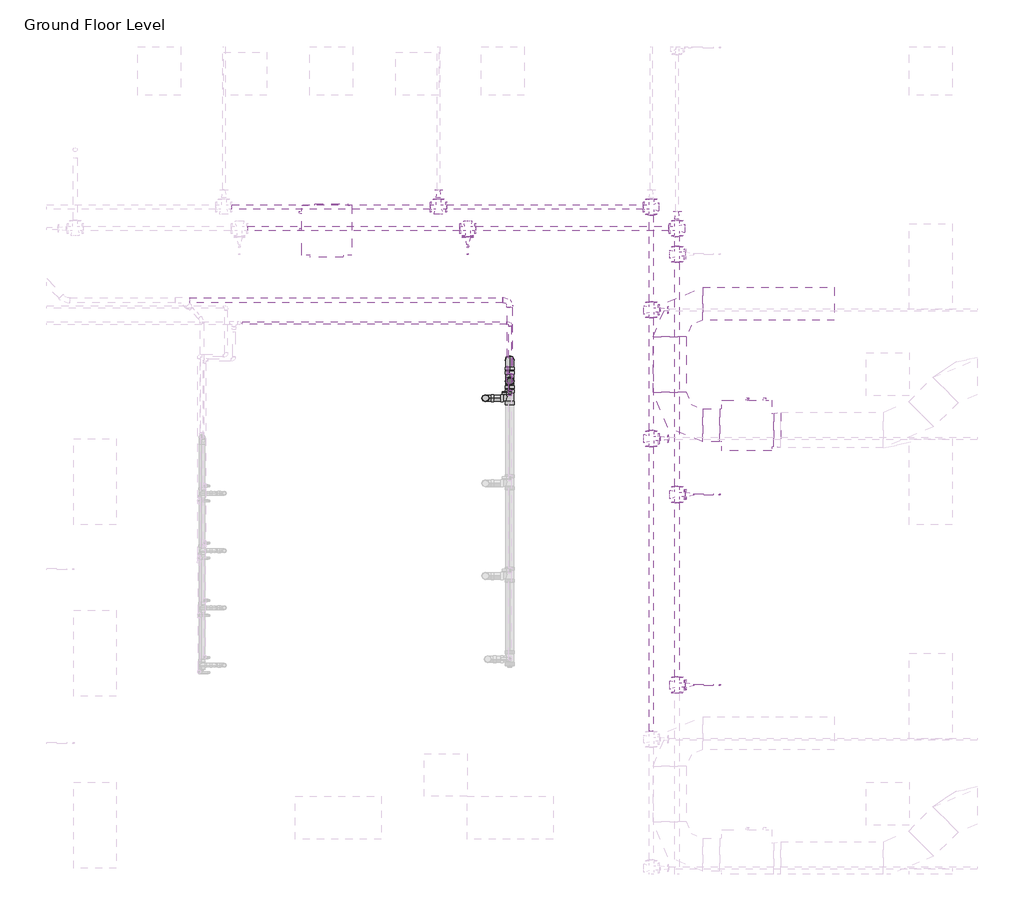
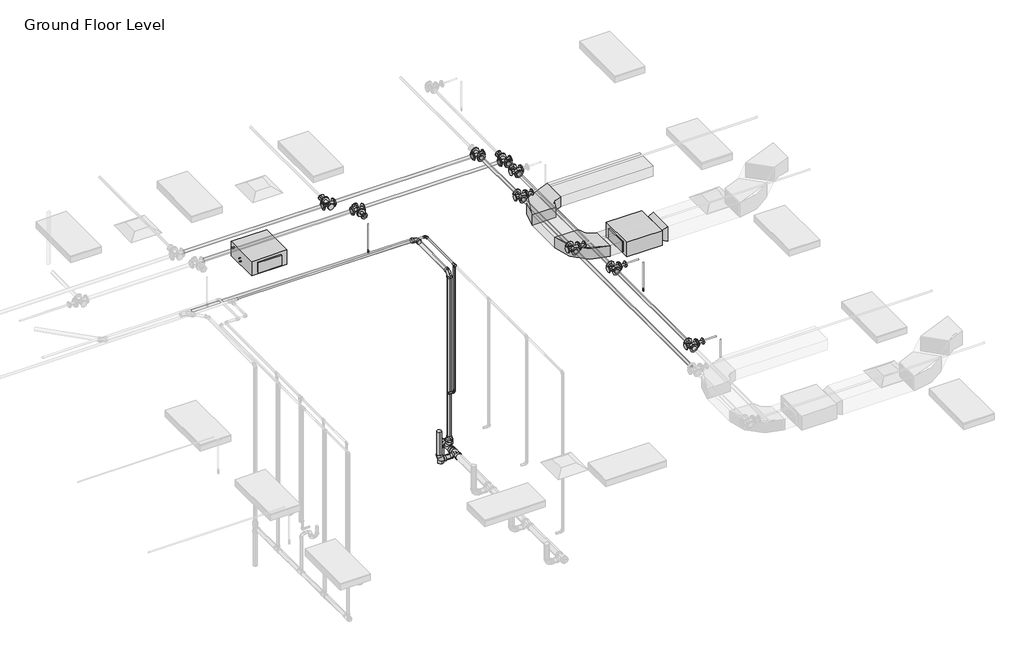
# One storey, part 60 of 66: 29 pipe segments, 26 pipe fittings, 3 duct fittings, 3 duct segments, 3 fire suppression terminals, 2 proxies.
"""IFC4 building model written with IfcOpenShell, lengths in millimetres."""

from ifc_helpers import new_model, si_unit, point, frame, frame_2d, origin, place, context, project, spatial, polyline, circle_curve, trimmed, segment, composite_curve, outline, extrude, transform, mapped, element, save
from components import fcu_daikin_iu_bad131e0, m_rectangular_elbow_radius_1_w_54c96895, m_rectangular_transition_angle_45_degree_2b595dfe, m_sprinkler_pendent_15_mm_pendent_06fcbd8e, m_bend_pvc_sch_40_dwv_standard_a4b99d37, m_bend_pvc_sch_40_dwv_standard_aa7efa4c, m_bend_pvc_sch_40_dwv_standard_c8221c0d, m_bend_pvc_sch_40_dwv_standard_69456cca, m_reducer_flanged_cs_class_150_standard_9dfe9ec5, m_reducer_flanged_cs_class_150_standard_a7631c35, m_reducer_flanged_cs_class_150_standard_55262df0, m_reducer_pvc_sch_40_dwv_standard_9996614f, m_tee_reducing_sanitary_pvc_sch_40_dwv_standard_b49161a9, m_tee_reducing_sanitary_pvc_sch_40_dwv_standard_c42f3c59, m_tee_round_base_flanged_cs_class_150_standard_dd767e04, standard_517a5a8d, standard_72b35c3b

model = new_model("IFC4")

# Units and contexts
model_context = context("Model", 3, world=origin())
ifc_project = project(units=[si_unit("LENGTHUNIT", "METRE", prefix="MILLI")], contexts=[model_context])

# Site, building, storey
site = spatial("IfcSite", under=ifc_project)
building = spatial("IfcBuilding", under=site)
storey = spatial("IfcBuildingStorey", under=building, Name="Ground Floor Level", Elevation=900.0)

# Proxies
placement = place(None, origin())
fcu_daikin_iu_shape = fcu_daikin_iu_bad131e0(model_context)
element("IfcBuildingElementProxy", 1, Name="FCU-DAIKIN IU : 4.5kW, 230V/50Hz/1Ph", ObjectType="FCU-DAIKIN IU : 4.5kW, 230V/50Hz/1Ph", at=placement, inside=storey, context=model_context, shape_type="MappedRepresentation", body=[
    mapped(fcu_daikin_iu_shape, transform((6968.8139492, 12019.6779527, 3934.0932729), x_axis=(0.0, 1.0, 0.0), y_axis=(-1.0, 0.0, 0.0), z_axis=(0.0, 0.0, 1.0))),
])
element("IfcBuildingElementProxy", 2, Name="FCU-DAIKIN IU : 4.5kW, 230V/50Hz/1Ph", ObjectType="FCU-DAIKIN IU : 4.5kW, 230V/50Hz/1Ph", at=placement, inside=storey, context=model_context, shape_type="MappedRepresentation", body=[
    mapped(fcu_daikin_iu_shape, transform((1102.7672395, 14745.2153534, 3934.0881511), x_axis=(-1.0, 0.0, 0.0), y_axis=(0.0, -1.0, 0.0), z_axis=(0.0, 0.0, 1.0))),
])

# Duct fittings
m_rectangular_elbow_radius_1_w_shape = m_rectangular_elbow_radius_1_w_54c96895(model_context)
element("IfcDuctFitting", 3, ObjectType="M_Rectangular Elbow - Radius : 1 W", at=placement, inside=storey, context=model_context, shape_type="MappedRepresentation", body=[
    mapped(m_rectangular_elbow_radius_1_w_shape, transform((5893.4139492, 12019.6779527, 4075.2932729), x_axis=(0.0, -1.0, 0.0), y_axis=(1.0, 0.0, 0.0), z_axis=(0.0, 0.0, 1.0))),
])
element("IfcDuctFitting", 4, ObjectType="M_Rectangular Elbow - Radius : 1 W", at=placement, inside=storey, context=model_context, shape_type="MappedRepresentation", body=[
    mapped(m_rectangular_elbow_radius_1_w_shape, transform((5893.4139492, 13719.6783949, 4075.2932729), x_axis=(-1.0, 0.0, 0.0), y_axis=(0.0, -1.0, 0.0), z_axis=(0.0, 0.0, 1.0))),
])
m_rectangular_transition_angle_45_degree_shape = m_rectangular_transition_angle_45_degree_2b595dfe(model_context)
element("IfcDuctFitting", 5, ObjectType="M_Rectangular Transition - Angle : 45 Degree", at=placement, inside=storey, context=model_context, shape_type="MappedRepresentation", body=[
    mapped(m_rectangular_transition_angle_45_degree_shape, transform((7344.2139492, 11956.1779527, 4100.0057729), x_axis=(1.0, 0.0, 0.0), y_axis=(0.0, 1.0, 0.0), z_axis=(0.0, 0.0, 1.0))),
])

# Duct segments
element("IfcDuctSegment", 6, ObjectType="Radius Elbows / Taps", at=placement, inside=storey, context=model_context, shape_type="SweptSolid", body=[
    extrude(outline(polyline([(6593.4139492, 12250.6154527), (6593.4139492, 11788.7404527), (6355.2889492, 11788.7404527), (6355.2889492, 12250.6154527), (6593.4139492, 12250.6154527)])), frame((0.0, 0.0, 3968.1432729), z_axis=(0.0, 0.0, 1.0), x_axis=(1.0, 0.0, 0.0)), (0.0, 0.0, 1.0), 214.3),
])
element("IfcDuctSegment", 7, ObjectType="Radius Elbows / Taps", at=placement, inside=storey, context=model_context, shape_type="SweptSolid", body=[
    extrude(outline(polyline([(6124.3514492, 12481.5529527), (5662.4764492, 12481.5529527), (5662.4764492, 13257.8033949), (6124.3514492, 13257.8033949), (6124.3514492, 12481.5529527)])), frame((0.0, 0.0, 3968.1432729), z_axis=(0.0, 0.0, 1.0), x_axis=(1.0, 0.0, 0.0)), (0.0, 0.0, 1.0), 214.3),
])
element("IfcDuctSegment", 8, ObjectType="Radius Elbows / Taps", at=placement, inside=storey, context=model_context, shape_type="SweptSolid", body=[
    extrude(outline(polyline([(6355.2889492, 13488.7408949), (6355.2889492, 13950.6158949), (8193.4139492, 13950.6158949), (8193.4139492, 13488.7408949), (6355.2889492, 13488.7408949)])), frame((0.0, 0.0, 3968.1432729), z_axis=(0.0, 0.0, 1.0), x_axis=(1.0, 0.0, 0.0)), (0.0, 0.0, 1.0), 214.3),
])

# Fire suppression terminals
m_sprinkler_pendent_15_mm_pendent_shape = m_sprinkler_pendent_15_mm_pendent_06fcbd8e(model_context)
element("IfcFireSuppressionTerminal", 9, ObjectType="M_Sprinkler - Pendent : 15 mm Pendent", at=placement, inside=storey, context=model_context, shape_type="MappedRepresentation", body=[
    mapped(m_sprinkler_pendent_15_mm_pendent_shape, transform((3071.8868905, 14412.7243649, 3650.0), x_axis=(1.0, 0.0, 0.0), y_axis=(0.0, 1.0, 0.0), z_axis=(0.0, 0.0, 1.0))),
])
element("IfcFireSuppressionTerminal", 10, ObjectType="M_Sprinkler - Pendent : 15 mm Pendent", at=placement, inside=storey, context=model_context, shape_type="MappedRepresentation", body=[
    mapped(m_sprinkler_pendent_15_mm_pendent_shape, transform((6592.5481019, 11054.9808263, 3650.0), x_axis=(1.0, 0.0, 0.0), y_axis=(0.0, 1.0, 0.0), z_axis=(0.0, 0.0, 1.0))),
])
element("IfcFireSuppressionTerminal", 11, ObjectType="M_Sprinkler - Pendent : 15 mm Pendent", at=placement, inside=storey, context=model_context, shape_type="MappedRepresentation", body=[
    mapped(m_sprinkler_pendent_15_mm_pendent_shape, transform((6592.5481019, 8393.5579106, 3650.0), x_axis=(1.0, 0.0, 0.0), y_axis=(0.0, 1.0, 0.0), z_axis=(0.0, 0.0, 1.0))),
])

# Pipe fittings
m_bend_pvc_sch_40_dwv_standard_shape = m_bend_pvc_sch_40_dwv_standard_a4b99d37(model_context)
element("IfcPipeFitting", 12, ObjectType="M_Bend - PVC - Sch 40 - DWV : Standard", at=placement, inside=storey, context=model_context, shape_type="MappedRepresentation", body=[
    mapped(m_bend_pvc_sch_40_dwv_standard_shape, transform((3319.2245422, 12401.0385609, 390.1593073), x_axis=(0.0, 0.0, -1.0), y_axis=(1.0, 0.0, 0.0), z_axis=(0.0, -1.0, 0.0))),
])
m_bend_pvc_sch_40_dwv_standard_2_shape = m_bend_pvc_sch_40_dwv_standard_aa7efa4c(model_context)
element("IfcPipeFitting", 13, ObjectType="M_Bend - PVC - Sch 40 - DWV : Standard", at=placement, inside=storey, context=model_context, shape_type="MappedRepresentation", body=[
    mapped(m_bend_pvc_sch_40_dwv_standard_2_shape, transform((3657.4922763, 12931.9692954, 384.8), x_axis=(0.0, 0.9999500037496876, -0.00999950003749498), y_axis=(0.0, -0.00999950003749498, -0.9999500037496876), z_axis=(-1.0, 0.0, 0.0))),
])
m_bend_pvc_sch_40_dwv_standard_3_shape = m_bend_pvc_sch_40_dwv_standard_c8221c0d(model_context)
element("IfcPipeFitting", 14, ObjectType="M_Bend - PVC - Sch 40 - DWV : Standard", at=placement, inside=storey, context=model_context, shape_type="MappedRepresentation", body=[
    mapped(m_bend_pvc_sch_40_dwv_standard_3_shape, transform((3657.4860907, 12640.4076203, 4054.1870995), x_axis=(0.0, 0.0, 1.0), y_axis=(0.0, 1.0, 0.0), z_axis=(-1.0, 0.0, 0.0))),
])
m_bend_pvc_sch_40_dwv_standard_4_shape = m_bend_pvc_sch_40_dwv_standard_69456cca(model_context)
element("IfcPipeFitting", 15, ObjectType="M_Bend - PVC - Sch 40 - DWV : Standard", at=placement, inside=storey, context=model_context, shape_type="MappedRepresentation", body=[
    mapped(m_bend_pvc_sch_40_dwv_standard_4_shape, transform((3657.4860907, 13768.7316659, 4065.526469), x_axis=(0.0, 0.9999495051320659, 0.010049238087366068), y_axis=(-0.9999499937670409, -0.00010049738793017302, 0.009999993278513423), z_axis=(0.01000049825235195, -0.010048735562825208, 0.9998995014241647))),
])
m_reducer_flanged_cs_class_150_standard_shape = m_reducer_flanged_cs_class_150_standard_9dfe9ec5(model_context)
element("IfcPipeFitting", 16, ObjectType="M_Reducer - Flanged - CS - Class 150 : Standard", at=placement, inside=storey, context=model_context, shape_type="MappedRepresentation", body=[
    mapped(m_reducer_flanged_cs_class_150_standard_shape, transform((6111.057812, 11054.9808263, 4291.2754753), x_axis=(1.0, 0.0, 0.0), y_axis=(0.0, 0.0, -1.0), z_axis=(0.0, 1.0, 0.0))),
])
element("IfcPipeFitting", 17, ObjectType="M_Reducer - Flanged - CS - Class 150 : Standard", at=placement, inside=storey, context=model_context, shape_type="MappedRepresentation", body=[
    mapped(m_reducer_flanged_cs_class_150_standard_shape, transform((6111.057812, 8393.5579106, 4291.2754753), x_axis=(1.0, 0.0, 0.0), y_axis=(0.0, 0.0, -1.0), z_axis=(0.0, 1.0, 0.0))),
])
m_reducer_flanged_cs_class_150_standard_2_shape = m_reducer_flanged_cs_class_150_standard_a7631c35(model_context)
element("IfcPipeFitting", 18, ObjectType="M_Reducer - Flanged - CS - Class 150 : Standard", at=placement, inside=storey, context=model_context, shape_type="MappedRepresentation", body=[
    mapped(m_reducer_flanged_cs_class_150_standard_2_shape, transform((5997.057812, 14887.4681847, 4291.0943441), x_axis=(0.0, 1.0, 0.0), y_axis=(-1.0, 0.0, 0.0), z_axis=(0.0, 0.0, 1.0))),
])
element("IfcPipeFitting", 19, ObjectType="M_Reducer - Flanged - CS - Class 150 : Standard", at=placement, inside=storey, context=model_context, shape_type="MappedRepresentation", body=[
    mapped(m_reducer_flanged_cs_class_150_standard_2_shape, transform((2662.7672395, 15187.2009828, 4360.0), x_axis=(0.0, 1.0, 0.0), y_axis=(-1.0, 0.0, 0.0), z_axis=(0.0, 0.0, 1.0))),
])
element("IfcPipeFitting", 20, ObjectType="M_Reducer - Flanged - CS - Class 150 : Standard", at=placement, inside=storey, context=model_context, shape_type="MappedRepresentation", body=[
    mapped(m_reducer_flanged_cs_class_150_standard_2_shape, transform((5749.869498, 13635.2153534, 4360.0), x_axis=(1.0, 0.0, 0.0), y_axis=(0.0, 0.0, 1.0), z_axis=(0.0, -1.0, 0.0))),
])
element("IfcPipeFitting", 21, ObjectType="M_Reducer - Flanged - CS - Class 150 : Standard", at=placement, inside=storey, context=model_context, shape_type="MappedRepresentation", body=[
    mapped(m_reducer_flanged_cs_class_150_standard_2_shape, transform((5749.869498, 11835.2153534, 4360.0), x_axis=(1.0, 0.0, 0.0), y_axis=(0.0, 0.0, 1.0), z_axis=(0.0, -1.0, 0.0))),
])
m_reducer_flanged_cs_class_150_standard_3_shape = m_reducer_flanged_cs_class_150_standard_55262df0(model_context)
element("IfcPipeFitting", 22, ObjectType="M_Reducer - Flanged - CS - Class 150 : Standard", at=placement, inside=storey, context=model_context, shape_type="MappedRepresentation", body=[
    mapped(m_reducer_flanged_cs_class_150_standard_3_shape, transform((3071.8868905, 14659.4681847, 4291.0943441), x_axis=(0.0, -1.0, 0.0), y_axis=(1.0, 0.0, 0.0), z_axis=(0.0, 0.0, 1.0))),
])
m_reducer_pvc_sch_40_dwv_standard_shape = m_reducer_pvc_sch_40_dwv_standard_9996614f(model_context)
element("IfcPipeFitting", 23, ObjectType="M_Reducer - PVC - Sch 40 - DWV : Standard", at=placement, inside=storey, context=model_context, shape_type="MappedRepresentation", body=[
    mapped(m_reducer_pvc_sch_40_dwv_standard_shape, transform((3657.4891752, 12640.1615283, 533.8243961), x_axis=(0.0, 7.101608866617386e-05, 0.9999999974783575), y_axis=(0.0, 0.9999999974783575, -7.101608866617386e-05), z_axis=(-1.0, 0.0, 0.0))),
])
m_tee_reducing_sanitary_pvc_sch_40_dwv_standard_shape = m_tee_reducing_sanitary_pvc_sch_40_dwv_standard_b49161a9(model_context)
element("IfcPipeFitting", 24, ObjectType="M_Tee Reducing Sanitary - PVC - Sch 40 - DWV : Standard", at=placement, inside=storey, context=model_context, shape_type="MappedRepresentation", body=[
    mapped(m_tee_reducing_sanitary_pvc_sch_40_dwv_standard_shape, transform((3657.4922763, 12401.038061, 390.1093123), x_axis=(0.0, -0.9999500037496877, 0.009999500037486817), y_axis=(1.0000000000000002, 0.0, 0.0), z_axis=(0.0, 0.009999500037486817, 0.9999500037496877))),
])
m_tee_reducing_sanitary_pvc_sch_40_dwv_standard_2_shape = m_tee_reducing_sanitary_pvc_sch_40_dwv_standard_c42f3c59(model_context)
element("IfcPipeFitting", 25, ObjectType="M_Tee Reducing Sanitary - PVC - Sch 40 - DWV : Standard", at=placement, inside=storey, context=model_context, shape_type="MappedRepresentation", body=[
    mapped(m_tee_reducing_sanitary_pvc_sch_40_dwv_standard_2_shape, transform((3657.4922763, 12640.3832411, 387.7158605), x_axis=(0.0, -0.9999500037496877, 0.009999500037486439), y_axis=(0.0, -0.009999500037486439, -0.9999500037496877), z_axis=(1.0, 0.0, 0.0))),
])
m_tee_round_base_flanged_cs_class_150_standard_shape = m_tee_round_base_flanged_cs_class_150_standard_dd767e04(model_context)
element("IfcPipeFitting", 26, ObjectType="M_Tee Round Base - Flanged - CS - Class 150 : Standard", at=placement, inside=storey, context=model_context, shape_type="MappedRepresentation", body=[
    mapped(m_tee_round_base_flanged_cs_class_150_standard_shape, transform((5997.057812, 14773.4681847, 4291.0943441), x_axis=(0.0, -1.0, 0.0), y_axis=(1.0, 0.0, 0.0), z_axis=(0.0, 0.0, 1.0))),
])
element("IfcPipeFitting", 27, ObjectType="M_Tee Round Base - Flanged - CS - Class 150 : Standard", at=placement, inside=storey, context=model_context, shape_type="MappedRepresentation", body=[
    mapped(m_tee_round_base_flanged_cs_class_150_standard_shape, transform((3071.8868905, 14773.4681847, 4291.0943441), x_axis=(-1.0, 0.0, 0.0), y_axis=(0.0, 1.0, 0.0), z_axis=(0.0, 0.0, -1.0))),
])
element("IfcPipeFitting", 28, ObjectType="M_Tee Round Base - Flanged - CS - Class 150 : Standard", at=placement, inside=storey, context=model_context, shape_type="MappedRepresentation", body=[
    mapped(m_tee_round_base_flanged_cs_class_150_standard_shape, transform((5997.057812, 14412.7243649, 4291.0943441), x_axis=(0.0, 1.0, 0.0), y_axis=(-1.0, 0.0, 0.0), z_axis=(0.0, 0.0, 1.0))),
])
element("IfcPipeFitting", 29, ObjectType="M_Tee Round Base - Flanged - CS - Class 150 : Standard", at=placement, inside=storey, context=model_context, shape_type="MappedRepresentation", body=[
    mapped(m_tee_round_base_flanged_cs_class_150_standard_shape, transform((5997.057812, 11054.9808263, 4291.0943441), x_axis=(0.0, 1.0, 0.0), y_axis=(-1.0, 0.0, 0.0), z_axis=(0.0, 0.0, 1.0))),
])
element("IfcPipeFitting", 30, ObjectType="M_Tee Round Base - Flanged - CS - Class 150 : Standard", at=placement, inside=storey, context=model_context, shape_type="MappedRepresentation", body=[
    mapped(m_tee_round_base_flanged_cs_class_150_standard_shape, transform((5997.057812, 8393.5579106, 4291.0943441), x_axis=(0.0, 1.0, 0.0), y_axis=(-1.0, 0.0, 0.0), z_axis=(0.0, 0.0, 1.0))),
])
element("IfcPipeFitting", 31, ObjectType="M_Tee Round Base - Flanged - CS - Class 150 : Standard", at=placement, inside=storey, context=model_context, shape_type="MappedRepresentation", body=[
    mapped(m_tee_round_base_flanged_cs_class_150_standard_shape, transform((2662.7672395, 15073.2009828, 4360.0), x_axis=(-1.0, 0.0, 0.0), y_axis=(0.0, -1.0, 0.0), z_axis=(0.0, 0.0, 1.0))),
])
element("IfcPipeFitting", 32, ObjectType="M_Tee Round Base - Flanged - CS - Class 150 : Standard", at=placement, inside=storey, context=model_context, shape_type="MappedRepresentation", body=[
    mapped(m_tee_round_base_flanged_cs_class_150_standard_shape, transform((5635.869498, 15073.2009828, 4360.0), x_axis=(0.0, -1.0, 0.0), y_axis=(1.0, 0.0, 0.0), z_axis=(0.0, 0.0, 1.0))),
])
element("IfcPipeFitting", 33, ObjectType="M_Tee Round Base - Flanged - CS - Class 150 : Standard", at=placement, inside=storey, context=model_context, shape_type="MappedRepresentation", body=[
    mapped(m_tee_round_base_flanged_cs_class_150_standard_shape, transform((5635.869498, 13635.2153534, 4360.0), x_axis=(0.0, 1.0, 0.0), y_axis=(-1.0, 0.0, 0.0), z_axis=(0.0, 0.0, 1.0))),
])
element("IfcPipeFitting", 34, ObjectType="M_Tee Round Base - Flanged - CS - Class 150 : Standard", at=placement, inside=storey, context=model_context, shape_type="MappedRepresentation", body=[
    mapped(m_tee_round_base_flanged_cs_class_150_standard_shape, transform((5635.869498, 11835.2153534, 4360.0), x_axis=(0.0, 1.0, 0.0), y_axis=(-1.0, 0.0, 0.0), z_axis=(0.0, 0.0, 1.0))),
])
standard_shape = standard_517a5a8d(model_context)
element("IfcPipeFitting", 35, ObjectType="M_Elbow - CPVC - Sch 40 : Standard", at=placement, inside=storey, context=model_context, shape_type="MappedRepresentation", body=[
    mapped(standard_shape, transform((3662.4674395, 13449.9865561, 4315.0), x_axis=(0.0, 1.0, 0.0), y_axis=(-1.0, 0.0, 0.0), z_axis=(0.0, 0.0, 1.0))),
])
element("IfcPipeFitting", 36, ObjectType="M_Elbow - CPVC - Sch 40 : Standard", at=placement, inside=storey, context=model_context, shape_type="MappedRepresentation", body=[
    mapped(standard_shape, transform((3662.4674395, 12474.4768272, 1655.0), x_axis=(0.0, 0.0, -1.0), y_axis=(-1.0, 0.0, 0.0), z_axis=(0.0, 1.0, 0.0))),
])
standard_2_shape = standard_72b35c3b(model_context)
element("IfcPipeFitting", 37, ObjectType="M_Tee - CPVC - Sch 40 : Standard", at=placement, inside=storey, context=model_context, shape_type="MappedRepresentation", body=[
    mapped(standard_2_shape, transform((3662.4674395, 12474.4768272, 4315.0), x_axis=(0.0, -1.0, 0.0), y_axis=(0.0, 0.0, 1.0), z_axis=(-1.0, 0.0, 0.0))),
])

# Pipe segments
element("IfcPipeSegment", 38, ObjectType="CPVC", at=placement, inside=storey, context=model_context, shape_type="SweptSolid", body=[
    extrude(outline(composite_curve([segment(trimmed(circle_curve(frame_2d((13449.9865561, 4315.0)), 16.7005), [point((13433.2860561, 4315.0))], [point((13449.9865561, 4331.7005))], False, "CARTESIAN"), True, "CONTINUOUS"), segment(trimmed(circle_curve(frame_2d((13449.9865561, 4315.0)), 16.7005), [point((13449.9865561, 4331.7005))], [point((13466.6870561, 4315.0))], False, "CARTESIAN"), True, "CONTINUOUS"), segment(trimmed(circle_curve(frame_2d((13449.9865561, 4315.0)), 16.7005), [point((13466.6870561, 4315.0))], [point((13449.9865561, 4298.2995))], False, "CARTESIAN"), True, "CONTINUOUS"), segment(trimmed(circle_curve(frame_2d((13449.9865561, 4315.0)), 16.7005), [point((13449.9865561, 4298.2995))], [point((13433.2860561, 4315.0))], False, "CARTESIAN"), True, "CONTINUOUS")], self_intersect=False)), frame((-77.1388855, 0.0, 0.0), z_axis=(1.0, 0.0, 0.0), x_axis=(0.0, 1.0, 0.0)), (0.0, 0.0, 1.0), 3696.343775),
])
element("IfcPipeSegment", 39, ObjectType="CPVC", at=placement, inside=storey, context=model_context, shape_type="SweptSolid", body=[
    extrude(outline(composite_curve([segment(trimmed(circle_curve(frame_2d((12474.4768272, 1655.0)), 16.7005), [point((12491.1773272, 1655.0))], [point((12474.4768272, 1638.2995))], False, "CARTESIAN"), True, "CONTINUOUS"), segment(trimmed(circle_curve(frame_2d((12474.4768272, 1655.0)), 16.7005), [point((12474.4768272, 1638.2995))], [point((12457.7763272, 1655.0))], False, "CARTESIAN"), True, "CONTINUOUS"), segment(trimmed(circle_curve(frame_2d((12474.4768272, 1655.0)), 16.7005), [point((12457.7763272, 1655.0))], [point((12474.4768272, 1671.7005))], False, "CARTESIAN"), True, "CONTINUOUS"), segment(trimmed(circle_curve(frame_2d((12474.4768272, 1655.0)), 16.7005), [point((12474.4768272, 1671.7005))], [point((12491.1773272, 1655.0))], False, "CARTESIAN"), True, "CONTINUOUS")], self_intersect=False)), frame((3552.7672395, 0.0, 0.0), z_axis=(1.0, 0.0, 0.0), x_axis=(0.0, 1.0, 0.0)), (0.0, 0.0, 1.0), 66.43765),
])
element("IfcPipeSegment", 40, ObjectType="CPVC", at=placement, inside=storey, context=model_context, shape_type="SweptSolid", body=[
    extrude(outline(composite_curve([segment(trimmed(circle_curve(frame_2d((3662.4674395, 12474.4768272)), 16.7005), [point((3679.1679395, 12474.4768272))], [point((3662.4674395, 12457.7763272))], False, "CARTESIAN"), True, "CONTINUOUS"), segment(trimmed(circle_curve(frame_2d((3662.4674395, 12474.4768272)), 16.7005), [point((3662.4674395, 12457.7763272))], [point((3645.7669395, 12474.4768272))], False, "CARTESIAN"), True, "CONTINUOUS"), segment(trimmed(circle_curve(frame_2d((3662.4674395, 12474.4768272)), 16.7005), [point((3645.7669395, 12474.4768272))], [point((3662.4674395, 12491.1773272))], False, "CARTESIAN"), True, "CONTINUOUS"), segment(trimmed(circle_curve(frame_2d((3662.4674395, 12474.4768272)), 16.7005), [point((3662.4674395, 12491.1773272))], [point((3679.1679395, 12474.4768272))], False, "CARTESIAN"), True, "CONTINUOUS")], self_intersect=False)), frame((0.0, 0.0, 1698.26255), z_axis=(0.0, 0.0, 1.0), x_axis=(1.0, 0.0, 0.0)), (0.0, 0.0, 1.0), 2577.03725),
])
element("IfcPipeSegment", 41, ObjectType="CPVC", at=placement, inside=storey, context=model_context, shape_type="SweptSolid", body=[
    extrude(outline(composite_curve([segment(trimmed(circle_curve(frame_2d((4315.0, 3662.4674395)), 16.7005), [point((4315.0, 3645.7669395))], [point((4298.2995, 3662.4674395))], False, "CARTESIAN"), True, "CONTINUOUS"), segment(trimmed(circle_curve(frame_2d((4315.0, 3662.4674395)), 16.7005), [point((4298.2995, 3662.4674395))], [point((4315.0, 3679.1679395))], False, "CARTESIAN"), True, "CONTINUOUS"), segment(trimmed(circle_curve(frame_2d((4315.0, 3662.4674395)), 16.7005), [point((4315.0, 3679.1679395))], [point((4331.7005, 3662.4674395))], False, "CARTESIAN"), True, "CONTINUOUS"), segment(trimmed(circle_curve(frame_2d((4315.0, 3662.4674395)), 16.7005), [point((4331.7005, 3662.4674395))], [point((4315.0, 3645.7669395))], False, "CARTESIAN"), True, "CONTINUOUS")], self_intersect=False)), frame((0.0, 12514.1770272, 0.0), z_axis=(0.0, 1.0, 0.0), x_axis=(0.0, 0.0, 1.0)), (0.0, 0.0, 1.0), 892.546979),
])
element("IfcPipeSegment", 42, ObjectType="PVC - DWV", at=placement, inside=storey, context=model_context, shape_type="SweptSolid", body=[
    extrude(outline(composite_curve([segment(trimmed(circle_curve(frame_2d((3657.4922763, 12931.9692954)), 57.15), [point((3714.6422763, 12931.9692954))], [point((3657.4922763, 12874.8192954))], False, "CARTESIAN"), True, "CONTINUOUS"), segment(trimmed(circle_curve(frame_2d((3657.4922763, 12931.9692954)), 57.15), [point((3657.4922763, 12874.8192954))], [point((3600.3422763, 12931.9692954))], False, "CARTESIAN"), True, "CONTINUOUS"), segment(trimmed(circle_curve(frame_2d((3657.4922763, 12931.9692954)), 57.15), [point((3600.3422763, 12931.9692954))], [point((3657.4922763, 12989.1192954))], False, "CARTESIAN"), True, "CONTINUOUS"), segment(trimmed(circle_curve(frame_2d((3657.4922763, 12931.9692954)), 57.15), [point((3657.4922763, 12989.1192954))], [point((3714.6422763, 12931.9692954))], False, "CARTESIAN"), True, "CONTINUOUS")], self_intersect=False)), frame((0.0, 0.0, -100.0), z_axis=(0.0, 0.0, 1.0), x_axis=(1.0, 0.0, 0.0)), (0.0, 0.0, 1.0), 341.925),
])
element("IfcPipeSegment", 43, ObjectType="PVC - DWV", at=placement, inside=storey, context=model_context, shape_type="SweptSolid", body=[
    extrude(outline(composite_curve([segment(trimmed(circle_curve(frame_2d((0.0, -44.45)), 44.45), [point((-44.45, -44.45))], [point((0.0, 0.0))], False, "CARTESIAN"), True, "CONTINUOUS"), segment(trimmed(circle_curve(frame_2d((0.0, -44.45)), 44.45), [point((0.0, 0.0))], [point((44.45, -44.45))], False, "CARTESIAN"), True, "CONTINUOUS"), segment(trimmed(circle_curve(frame_2d((0.0, -44.45)), 44.45), [point((44.45, -44.45))], [point((0.0, -88.9))], False, "CARTESIAN"), True, "CONTINUOUS"), segment(trimmed(circle_curve(frame_2d((0.0, -44.45)), 44.45), [point((0.0, -88.9))], [point((-44.45, -44.45))], False, "CARTESIAN"), True, "CONTINUOUS")], self_intersect=False)), frame((3319.2245422, 12356.5885609, 506.0594614), z_axis=(0.0, -1.0330815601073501e-06, 0.9999999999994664), x_axis=(-1.0, 0.0, 0.0)), (0.0, 0.0, 1.0), 483.9404927),
])
element("IfcPipeSegment", 44, ObjectType="PVC - DWV", at=placement, inside=storey, context=model_context, shape_type="SweptSolid", body=[
    extrude(outline(composite_curve([segment(trimmed(circle_curve(frame_2d((12401.038061, 390.1093123)), 44.45), [point((12356.588061, 390.1093123))], [point((12401.038061, 434.5593123))], False, "CARTESIAN"), True, "CONTINUOUS"), segment(trimmed(circle_curve(frame_2d((12401.038061, 390.1093123)), 44.45), [point((12401.038061, 434.5593123))], [point((12445.488061, 390.1093123))], False, "CARTESIAN"), True, "CONTINUOUS"), segment(trimmed(circle_curve(frame_2d((12401.038061, 390.1093123)), 44.45), [point((12445.488061, 390.1093123))], [point((12401.038061, 345.6593123))], False, "CARTESIAN"), True, "CONTINUOUS"), segment(trimmed(circle_curve(frame_2d((12401.038061, 390.1093123)), 44.45), [point((12401.038061, 345.6593123))], [point((12356.588061, 390.1093123))], False, "CARTESIAN"), True, "CONTINUOUS")], self_intersect=False)), frame((3435.1247422, 0.0, 0.0), z_axis=(1.0, 0.0, 0.0), x_axis=(0.0, 1.0, 0.0)), (0.0, 0.0, 1.0), 93.767334),
])
element("IfcPipeSegment", 45, ObjectType="PVC - DWV", at=placement, inside=storey, context=model_context, shape_type="SweptSolid", body=[
    extrude(outline(composite_curve([segment(trimmed(circle_curve(frame_2d((0.0, 36.5125)), 36.5125), [point((36.5125, 36.5125))], [point((0.0, 0.0))], False, "CARTESIAN"), True, "CONTINUOUS"), segment(trimmed(circle_curve(frame_2d((0.0, 36.5125)), 36.5125), [point((0.0, 0.0))], [point((-36.5125, 36.5125))], False, "CARTESIAN"), True, "CONTINUOUS"), segment(trimmed(circle_curve(frame_2d((0.0, 36.5125)), 36.5125), [point((-36.5125, 36.5125))], [point((0.0, 73.025))], False, "CARTESIAN"), True, "CONTINUOUS"), segment(trimmed(circle_curve(frame_2d((0.0, 36.5125)), 36.5125), [point((0.0, 73.025))], [point((36.5125, 36.5125))], False, "CARTESIAN"), True, "CONTINUOUS")], self_intersect=False)), frame((3657.4860907, 12739.0497603, 4091.6927716), z_axis=(0.0, 0.9999495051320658, 0.010049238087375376), x_axis=(1.0, 0.0, 0.0)), (0.0, 0.0, 1.0), 930.3528981),
])
element("IfcPipeSegment", 46, ObjectType="PVC - DWV", at=placement, inside=storey, context=model_context, shape_type="SweptSolid", body=[
    extrude(outline(composite_curve([segment(trimmed(circle_curve(frame_2d((0.0, 57.1499999)), 57.15), [point((-57.15, 57.1499999))], [point((0.0, 114.3))], False, "CARTESIAN"), True, "CONTINUOUS"), segment(trimmed(circle_curve(frame_2d((0.0, 57.1499999)), 57.15), [point((0.0, 114.3))], [point((57.15, 57.1499999))], False, "CARTESIAN"), True, "CONTINUOUS"), segment(trimmed(circle_curve(frame_2d((0.0, 57.1499999)), 57.15), [point((57.15, 57.1499999))], [point((0.0, 0.0))], False, "CARTESIAN"), True, "CONTINUOUS"), segment(trimmed(circle_curve(frame_2d((0.0, 57.1499999)), 57.15), [point((0.0, 0.0))], [point((-57.15, 57.1499999))], False, "CARTESIAN"), True, "CONTINUOUS")], self_intersect=False)), frame((3657.4891752, 12583.0107966, 528.5214125), z_axis=(0.0, 0.0001378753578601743, 0.9999999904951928), x_axis=(1.0, 0.0, 0.0)), (0.0, 0.0, 1.0), 5.3108632),
])
element("IfcPipeSegment", 47, ObjectType="PVC - DWV", at=placement, inside=storey, context=model_context, shape_type="SweptSolid", body=[
    extrude(outline(composite_curve([segment(trimmed(circle_curve(frame_2d((0.0, -57.15)), 57.15), [point((57.15, -57.15))], [point((0.0, -114.3))], False, "CARTESIAN"), True, "CONTINUOUS"), segment(trimmed(circle_curve(frame_2d((0.0, -57.15)), 57.15), [point((0.0, -114.3))], [point((-57.15, -57.15))], False, "CARTESIAN"), True, "CONTINUOUS"), segment(trimmed(circle_curve(frame_2d((0.0, -57.15)), 57.15), [point((-57.15, -57.15))], [point((0.0, 0.0))], False, "CARTESIAN"), True, "CONTINUOUS"), segment(trimmed(circle_curve(frame_2d((0.0, -57.15)), 57.15), [point((0.0, 0.0))], [point((57.15, -57.15))], False, "CARTESIAN"), True, "CONTINUOUS")], self_intersect=False)), frame((3657.4922763, 12789.6729101, 443.3758213), z_axis=(0.0, -0.9999500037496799, 0.009999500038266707), x_axis=(1.0, 0.0, 0.0)), (0.0, 0.0, 1.0), 10.815727),
])
element("IfcPipeSegment", 48, ObjectType="PVC - DWV", at=placement, inside=storey, context=model_context, shape_type="SweptSolid", body=[
    extrude(outline(composite_curve([segment(trimmed(circle_curve(frame_2d((0.0, 36.5125)), 36.5125), [point((-36.5125, 36.5125))], [point((0.0, 73.025))], False, "CARTESIAN"), True, "CONTINUOUS"), segment(trimmed(circle_curve(frame_2d((0.0, 36.5125)), 36.5125), [point((0.0, 73.025))], [point((36.5125, 36.5125))], False, "CARTESIAN"), True, "CONTINUOUS"), segment(trimmed(circle_curve(frame_2d((0.0, 36.5125)), 36.5125), [point((36.5125, 36.5125))], [point((0.0, 0.0))], False, "CARTESIAN"), True, "CONTINUOUS"), segment(trimmed(circle_curve(frame_2d((0.0, 36.5125)), 36.5125), [point((0.0, 0.0))], [point((-36.5125, 36.5125))], False, "CARTESIAN"), True, "CONTINUOUS")], self_intersect=False)), frame((3657.4891752, 12603.6564102, 637.7731169), z_axis=(-9.298042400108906e-07, 7.1956944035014e-05, 0.9999999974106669), x_axis=(0.9999999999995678, 6.690470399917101e-11, 9.298042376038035e-07)), (0.0, 0.0, 1.0), 3317.402556),
])
element("IfcPipeSegment", 49, ObjectType="PVC - DWV", at=placement, inside=storey, context=model_context, shape_type="SweptSolid", body=[
    extrude(outline(composite_curve([segment(trimmed(circle_curve(frame_2d((0.0, -57.15)), 57.15), [point((57.15, -57.15))], [point((0.0, -114.3))], False, "CARTESIAN"), True, "CONTINUOUS"), segment(trimmed(circle_curve(frame_2d((0.0, -57.15)), 57.15), [point((0.0, -114.3))], [point((-57.15, -57.15))], False, "CARTESIAN"), True, "CONTINUOUS"), segment(trimmed(circle_curve(frame_2d((0.0, -57.15)), 57.15), [point((-57.15, -57.15))], [point((0.0, 0.0))], False, "CARTESIAN"), True, "CONTINUOUS"), segment(trimmed(circle_curve(frame_2d((0.0, -57.15)), 57.15), [point((0.0, 0.0))], [point((57.15, -57.15))], False, "CARTESIAN"), True, "CONTINUOUS")], self_intersect=False)), frame((3657.4922763, 12531.8027259, 445.9545231), z_axis=(0.0, -0.9999500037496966, 0.009999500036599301), x_axis=(1.0, 0.0, 0.0)), (0.0, 0.0, 1.0), 9.549703),
])
element("IfcPipeSegment", 50, ObjectType="PVC - DWV", at=placement, inside=storey, context=model_context, shape_type="SweptSolid", body=[
    extrude(outline(composite_curve([segment(trimmed(circle_curve(frame_2d((0.0, -36.5125)), 36.5125), [point((0.0, -73.025))], [point((-36.5125, -36.5125))], False, "CARTESIAN"), True, "CONTINUOUS"), segment(trimmed(circle_curve(frame_2d((0.0, -36.5125)), 36.5125), [point((-36.5125, -36.5125))], [point((0.0, 0.0))], False, "CARTESIAN"), True, "CONTINUOUS"), segment(trimmed(circle_curve(frame_2d((0.0, -36.5125)), 36.5125), [point((0.0, 0.0))], [point((36.5124999, -36.5125))], False, "CARTESIAN"), True, "CONTINUOUS"), segment(trimmed(circle_curve(frame_2d((0.0, -36.5125)), 36.5125), [point((36.5124999, -36.5125))], [point((0.0, -73.025))], False, "CARTESIAN"), True, "CONTINUOUS")], self_intersect=False)), frame((3558.47698, 13805.2441659, 4066.516709), z_axis=(-0.9999499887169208, 0.0, 0.010001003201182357), x_axis=(0.010001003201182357, 0.0, 0.9999499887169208)), (0.0, 0.0, 1.0), 4372.6285655),
])
element("IfcPipeSegment", 51, ObjectType="Steel flanged", at=placement, inside=storey, context=model_context, shape_type="SweptSolid", body=[
    extrude(outline(composite_curve([segment(trimmed(circle_curve(frame_2d((3071.8868905, 14412.7243649)), 10.668), [point((3061.2188905, 14412.7243649))], [point((3071.8868905, 14423.3923649))], False, "CARTESIAN"), True, "CONTINUOUS"), segment(trimmed(circle_curve(frame_2d((3071.8868905, 14412.7243649)), 10.668), [point((3071.8868905, 14423.3923649))], [point((3082.5548905, 14412.7243649))], False, "CARTESIAN"), True, "CONTINUOUS"), segment(trimmed(circle_curve(frame_2d((3071.8868905, 14412.7243649)), 10.668), [point((3082.5548905, 14412.7243649))], [point((3071.8868905, 14402.0563649))], False, "CARTESIAN"), True, "CONTINUOUS"), segment(trimmed(circle_curve(frame_2d((3071.8868905, 14412.7243649)), 10.668), [point((3071.8868905, 14402.0563649))], [point((3061.2188905, 14412.7243649))], False, "CARTESIAN"), True, "CONTINUOUS")], self_intersect=False)), frame((0.0, 0.0, 3650.0), z_axis=(0.0, 0.0, 1.0), x_axis=(1.0, 0.0, 0.0)), (0.0, 0.0, 1.0), 548.2668816),
])
element("IfcPipeSegment", 52, ObjectType="Steel flanged", at=placement, inside=storey, context=model_context, shape_type="SweptSolid", body=[
    extrude(outline(composite_curve([segment(trimmed(circle_curve(frame_2d((4291.0943441, 3071.8868905)), 10.668), [point((4291.0943441, 3082.5548905))], [point((4301.7623441, 3071.8868905))], False, "CARTESIAN"), True, "CONTINUOUS"), segment(trimmed(circle_curve(frame_2d((4291.0943441, 3071.8868905)), 10.668), [point((4301.7623441, 3071.8868905))], [point((4291.0943441, 3061.2188905))], False, "CARTESIAN"), True, "CONTINUOUS"), segment(trimmed(circle_curve(frame_2d((4291.0943441, 3071.8868905)), 10.668), [point((4291.0943441, 3061.2188905))], [point((4280.4263441, 3071.8868905))], False, "CARTESIAN"), True, "CONTINUOUS"), segment(trimmed(circle_curve(frame_2d((4291.0943441, 3071.8868905)), 10.668), [point((4280.4263441, 3071.8868905))], [point((4291.0943441, 3082.5548905))], False, "CARTESIAN"), True, "CONTINUOUS")], self_intersect=False)), frame((0.0, 14505.7329586, 0.0), z_axis=(0.0, 1.0, 0.0), x_axis=(0.0, 0.0, 1.0)), (0.0, 0.0, 1.0), 26.7352261),
])
element("IfcPipeSegment", 53, ObjectType="Steel flanged", at=placement, inside=storey, context=model_context, shape_type="SweptSolid", body=[
    extrude(outline(composite_curve([segment(trimmed(circle_curve(frame_2d((14773.4681847, 4291.0943441)), 30.1625), [point((14743.3056847, 4291.0943441))], [point((14773.4681847, 4321.2568441))], False, "CARTESIAN"), True, "CONTINUOUS"), segment(trimmed(circle_curve(frame_2d((14773.4681847, 4291.0943441)), 30.1625), [point((14773.4681847, 4321.2568441))], [point((14803.6306847, 4291.0943441))], False, "CARTESIAN"), True, "CONTINUOUS"), segment(trimmed(circle_curve(frame_2d((14773.4681847, 4291.0943441)), 30.1625), [point((14803.6306847, 4291.0943441))], [point((14773.4681847, 4260.9318441))], False, "CARTESIAN"), True, "CONTINUOUS"), segment(trimmed(circle_curve(frame_2d((14773.4681847, 4291.0943441)), 30.1625), [point((14773.4681847, 4260.9318441))], [point((14743.3056847, 4291.0943441))], False, "CARTESIAN"), True, "CONTINUOUS")], self_intersect=False)), frame((3185.8868905, 0.0, 0.0), z_axis=(1.0, 0.0, 0.0), x_axis=(0.0, 1.0, 0.0)), (0.0, 0.0, 1.0), 2697.1709215),
])
element("IfcPipeSegment", 54, ObjectType="Steel flanged", at=placement, inside=storey, context=model_context, shape_type="SweptSolid", body=[
    extrude(outline(composite_curve([segment(trimmed(circle_curve(frame_2d((14773.4681847, 4291.0943441)), 30.1625), [point((14743.3056847, 4291.0943441))], [point((14773.4681847, 4321.2568441))], False, "CARTESIAN"), True, "CONTINUOUS"), segment(trimmed(circle_curve(frame_2d((14773.4681847, 4291.0943441)), 30.1625), [point((14773.4681847, 4321.2568441))], [point((14803.6306847, 4291.0943441))], False, "CARTESIAN"), True, "CONTINUOUS"), segment(trimmed(circle_curve(frame_2d((14773.4681847, 4291.0943441)), 30.1625), [point((14803.6306847, 4291.0943441))], [point((14773.4681847, 4260.9318441))], False, "CARTESIAN"), True, "CONTINUOUS"), segment(trimmed(circle_curve(frame_2d((14773.4681847, 4291.0943441)), 30.1625), [point((14773.4681847, 4260.9318441))], [point((14743.3056847, 4291.0943441))], False, "CARTESIAN"), True, "CONTINUOUS")], self_intersect=False)), frame((-4.3252882, 0.0, 0.0), z_axis=(1.0, 0.0, 0.0), x_axis=(0.0, 1.0, 0.0)), (0.0, 0.0, 1.0), 2962.2121787),
])
element("IfcPipeSegment", 55, ObjectType="Steel flanged", at=placement, inside=storey, context=model_context, shape_type="SweptSolid", body=[
    extrude(outline(composite_curve([segment(trimmed(circle_curve(frame_2d((4291.0943441, 5997.057812)), 30.1625), [point((4291.0943441, 5966.895312))], [point((4260.9318441, 5997.057812))], False, "CARTESIAN"), True, "CONTINUOUS"), segment(trimmed(circle_curve(frame_2d((4291.0943441, 5997.057812)), 30.1625), [point((4260.9318441, 5997.057812))], [point((4291.0943441, 6027.220312))], False, "CARTESIAN"), True, "CONTINUOUS"), segment(trimmed(circle_curve(frame_2d((4291.0943441, 5997.057812)), 30.1625), [point((4291.0943441, 6027.220312))], [point((4321.2568441, 5997.057812))], False, "CARTESIAN"), True, "CONTINUOUS"), segment(trimmed(circle_curve(frame_2d((4291.0943441, 5997.057812)), 30.1625), [point((4321.2568441, 5997.057812))], [point((4291.0943441, 5966.895312))], False, "CARTESIAN"), True, "CONTINUOUS")], self_intersect=False)), frame((0.0, 14526.7243649, 0.0), z_axis=(0.0, 1.0, 0.0), x_axis=(0.0, 0.0, 1.0)), (0.0, 0.0, 1.0), 132.7438199),
])
element("IfcPipeSegment", 56, ObjectType="Steel flanged", at=placement, inside=storey, context=model_context, shape_type="SweptSolid", body=[
    extrude(outline(composite_curve([segment(trimmed(circle_curve(frame_2d((6592.5481019, 11054.9808263)), 10.668), [point((6581.8801019, 11054.9808263))], [point((6592.5481019, 11065.6488263))], False, "CARTESIAN"), True, "CONTINUOUS"), segment(trimmed(circle_curve(frame_2d((6592.5481019, 11054.9808263)), 10.668), [point((6592.5481019, 11065.6488263))], [point((6603.2161019, 11054.9808263))], False, "CARTESIAN"), True, "CONTINUOUS"), segment(trimmed(circle_curve(frame_2d((6592.5481019, 11054.9808263)), 10.668), [point((6603.2161019, 11054.9808263))], [point((6592.5481019, 11044.3128263))], False, "CARTESIAN"), True, "CONTINUOUS"), segment(trimmed(circle_curve(frame_2d((6592.5481019, 11054.9808263)), 10.668), [point((6592.5481019, 11044.3128263))], [point((6581.8801019, 11054.9808263))], False, "CARTESIAN"), True, "CONTINUOUS")], self_intersect=False)), frame((0.0, 0.0, 3650.0), z_axis=(0.0, 0.0, 1.0), x_axis=(1.0, 0.0, 0.0)), (0.0, 0.0, 1.0), 548.2668816),
])
element("IfcPipeSegment", 57, ObjectType="Steel flanged", at=placement, inside=storey, context=model_context, shape_type="SweptSolid", body=[
    extrude(outline(composite_curve([segment(trimmed(circle_curve(frame_2d((11054.9808263, 4291.2754753)), 10.668), [point((11065.6488263, 4291.2754753))], [point((11054.9808263, 4280.6074753))], False, "CARTESIAN"), True, "CONTINUOUS"), segment(trimmed(circle_curve(frame_2d((11054.9808263, 4291.2754753)), 10.668), [point((11054.9808263, 4280.6074753))], [point((11044.3128263, 4291.2754753))], False, "CARTESIAN"), True, "CONTINUOUS"), segment(trimmed(circle_curve(frame_2d((11054.9808263, 4291.2754753)), 10.668), [point((11044.3128263, 4291.2754753))], [point((11054.9808263, 4301.9434753))], False, "CARTESIAN"), True, "CONTINUOUS"), segment(trimmed(circle_curve(frame_2d((11054.9808263, 4291.2754753)), 10.668), [point((11054.9808263, 4301.9434753))], [point((11065.6488263, 4291.2754753))], False, "CARTESIAN"), True, "CONTINUOUS")], self_intersect=False)), frame((6238.057812, 0.0, 0.0), z_axis=(1.0, 0.0, 0.0), x_axis=(0.0, 1.0, 0.0)), (0.0, 0.0, 1.0), 261.4816962),
])
element("IfcPipeSegment", 58, ObjectType="Steel flanged", at=placement, inside=storey, context=model_context, shape_type="SweptSolid", body=[
    extrude(outline(composite_curve([segment(trimmed(circle_curve(frame_2d((4291.0943441, 5997.057812)), 30.1625), [point((4291.0943441, 5966.895312))], [point((4260.9318441, 5997.057812))], False, "CARTESIAN"), True, "CONTINUOUS"), segment(trimmed(circle_curve(frame_2d((4291.0943441, 5997.057812)), 30.1625), [point((4260.9318441, 5997.057812))], [point((4291.0943441, 6027.220312))], False, "CARTESIAN"), True, "CONTINUOUS"), segment(trimmed(circle_curve(frame_2d((4291.0943441, 5997.057812)), 30.1625), [point((4291.0943441, 6027.220312))], [point((4321.2568441, 5997.057812))], False, "CARTESIAN"), True, "CONTINUOUS"), segment(trimmed(circle_curve(frame_2d((4291.0943441, 5997.057812)), 30.1625), [point((4321.2568441, 5997.057812))], [point((4291.0943441, 5966.895312))], False, "CARTESIAN"), True, "CONTINUOUS")], self_intersect=False)), frame((0.0, 11168.9808263, 0.0), z_axis=(0.0, 1.0, 0.0), x_axis=(0.0, 0.0, 1.0)), (0.0, 0.0, 1.0), 3129.7435386),
])
element("IfcPipeSegment", 59, ObjectType="Steel flanged", at=placement, inside=storey, context=model_context, shape_type="SweptSolid", body=[
    extrude(outline(composite_curve([segment(trimmed(circle_curve(frame_2d((6592.5481019, 8393.5579106)), 10.668), [point((6581.8801019, 8393.5579106))], [point((6592.5481019, 8404.2259106))], False, "CARTESIAN"), True, "CONTINUOUS"), segment(trimmed(circle_curve(frame_2d((6592.5481019, 8393.5579106)), 10.668), [point((6592.5481019, 8404.2259106))], [point((6603.2161019, 8393.5579106))], False, "CARTESIAN"), True, "CONTINUOUS"), segment(trimmed(circle_curve(frame_2d((6592.5481019, 8393.5579106)), 10.668), [point((6603.2161019, 8393.5579106))], [point((6592.5481019, 8382.8899106))], False, "CARTESIAN"), True, "CONTINUOUS"), segment(trimmed(circle_curve(frame_2d((6592.5481019, 8393.5579106)), 10.668), [point((6592.5481019, 8382.8899106))], [point((6581.8801019, 8393.5579106))], False, "CARTESIAN"), True, "CONTINUOUS")], self_intersect=False)), frame((0.0, 0.0, 3650.0), z_axis=(0.0, 0.0, 1.0), x_axis=(1.0, 0.0, 0.0)), (0.0, 0.0, 1.0), 548.2668816),
])
element("IfcPipeSegment", 60, ObjectType="Steel flanged", at=placement, inside=storey, context=model_context, shape_type="SweptSolid", body=[
    extrude(outline(composite_curve([segment(trimmed(circle_curve(frame_2d((8393.5579106, 4291.2754753)), 10.668), [point((8404.2259106, 4291.2754753))], [point((8393.5579106, 4280.6074753))], False, "CARTESIAN"), True, "CONTINUOUS"), segment(trimmed(circle_curve(frame_2d((8393.5579106, 4291.2754753)), 10.668), [point((8393.5579106, 4280.6074753))], [point((8382.8899106, 4291.2754753))], False, "CARTESIAN"), True, "CONTINUOUS"), segment(trimmed(circle_curve(frame_2d((8393.5579106, 4291.2754753)), 10.668), [point((8382.8899106, 4291.2754753))], [point((8393.5579106, 4301.9434753))], False, "CARTESIAN"), True, "CONTINUOUS"), segment(trimmed(circle_curve(frame_2d((8393.5579106, 4291.2754753)), 10.668), [point((8393.5579106, 4301.9434753))], [point((8404.2259106, 4291.2754753))], False, "CARTESIAN"), True, "CONTINUOUS")], self_intersect=False)), frame((6238.057812, 0.0, 0.0), z_axis=(1.0, 0.0, 0.0), x_axis=(0.0, 1.0, 0.0)), (0.0, 0.0, 1.0), 261.4816962),
])
element("IfcPipeSegment", 61, ObjectType="Steel flanged", at=placement, inside=storey, context=model_context, shape_type="SweptSolid", body=[
    extrude(outline(composite_curve([segment(trimmed(circle_curve(frame_2d((4291.0943441, 5997.057812)), 30.1625), [point((4291.0943441, 5966.895312))], [point((4260.9318441, 5997.057812))], False, "CARTESIAN"), True, "CONTINUOUS"), segment(trimmed(circle_curve(frame_2d((4291.0943441, 5997.057812)), 30.1625), [point((4260.9318441, 5997.057812))], [point((4291.0943441, 6027.220312))], False, "CARTESIAN"), True, "CONTINUOUS"), segment(trimmed(circle_curve(frame_2d((4291.0943441, 5997.057812)), 30.1625), [point((4291.0943441, 6027.220312))], [point((4321.2568441, 5997.057812))], False, "CARTESIAN"), True, "CONTINUOUS"), segment(trimmed(circle_curve(frame_2d((4291.0943441, 5997.057812)), 30.1625), [point((4321.2568441, 5997.057812))], [point((4291.0943441, 5966.895312))], False, "CARTESIAN"), True, "CONTINUOUS")], self_intersect=False)), frame((0.0, 8507.5579106, 0.0), z_axis=(0.0, 1.0, 0.0), x_axis=(0.0, 0.0, 1.0)), (0.0, 0.0, 1.0), 2433.4229158),
])
element("IfcPipeSegment", 62, ObjectType="Steel flanged", at=placement, inside=storey, context=model_context, shape_type="SweptSolid", body=[
    extrude(outline(composite_curve([segment(trimmed(circle_curve(frame_2d((15073.2009828, 4360.0)), 30.1625), [point((15043.0384828, 4360.0))], [point((15073.2009828, 4390.1625))], False, "CARTESIAN"), True, "CONTINUOUS"), segment(trimmed(circle_curve(frame_2d((15073.2009828, 4360.0)), 30.1625), [point((15073.2009828, 4390.1625))], [point((15103.3634828, 4360.0))], False, "CARTESIAN"), True, "CONTINUOUS"), segment(trimmed(circle_curve(frame_2d((15073.2009828, 4360.0)), 30.1625), [point((15103.3634828, 4360.0))], [point((15073.2009828, 4329.8375))], False, "CARTESIAN"), True, "CONTINUOUS"), segment(trimmed(circle_curve(frame_2d((15073.2009828, 4360.0)), 30.1625), [point((15073.2009828, 4329.8375))], [point((15043.0384828, 4360.0))], False, "CARTESIAN"), True, "CONTINUOUS")], self_intersect=False)), frame((2776.7672395, 0.0, 0.0), z_axis=(1.0, 0.0, 0.0), x_axis=(0.0, 1.0, 0.0)), (0.0, 0.0, 1.0), 2745.1022585),
])
element("IfcPipeSegment", 63, ObjectType="Steel flanged", at=placement, inside=storey, context=model_context, shape_type="SweptSolid", body=[
    extrude(outline(composite_curve([segment(trimmed(circle_curve(frame_2d((15073.2009828, 4360.0)), 30.1625), [point((15043.0384828, 4360.0))], [point((15073.2009828, 4390.1625))], False, "CARTESIAN"), True, "CONTINUOUS"), segment(trimmed(circle_curve(frame_2d((15073.2009828, 4360.0)), 30.1625), [point((15073.2009828, 4390.1625))], [point((15103.3634828, 4360.0))], False, "CARTESIAN"), True, "CONTINUOUS"), segment(trimmed(circle_curve(frame_2d((15073.2009828, 4360.0)), 30.1625), [point((15103.3634828, 4360.0))], [point((15073.2009828, 4329.8375))], False, "CARTESIAN"), True, "CONTINUOUS"), segment(trimmed(circle_curve(frame_2d((15073.2009828, 4360.0)), 30.1625), [point((15073.2009828, 4329.8375))], [point((15043.0384828, 4360.0))], False, "CARTESIAN"), True, "CONTINUOUS")], self_intersect=False)), frame((-223.2327605, 0.0, 0.0), z_axis=(1.0, 0.0, 0.0), x_axis=(0.0, 1.0, 0.0)), (0.0, 0.0, 1.0), 2772.0),
])
element("IfcPipeSegment", 64, ObjectType="Steel flanged", at=placement, inside=storey, context=model_context, shape_type="SweptSolid", body=[
    extrude(outline(composite_curve([segment(trimmed(circle_curve(frame_2d((4360.0, 5635.869498)), 30.1625), [point((4360.0, 5605.706998))], [point((4329.8375, 5635.869498))], False, "CARTESIAN"), True, "CONTINUOUS"), segment(trimmed(circle_curve(frame_2d((4360.0, 5635.869498)), 30.1625), [point((4329.8375, 5635.869498))], [point((4360.0, 5666.031998))], False, "CARTESIAN"), True, "CONTINUOUS"), segment(trimmed(circle_curve(frame_2d((4360.0, 5635.869498)), 30.1625), [point((4360.0, 5666.031998))], [point((4390.1625, 5635.869498))], False, "CARTESIAN"), True, "CONTINUOUS"), segment(trimmed(circle_curve(frame_2d((4360.0, 5635.869498)), 30.1625), [point((4390.1625, 5635.869498))], [point((4360.0, 5605.706998))], False, "CARTESIAN"), True, "CONTINUOUS")], self_intersect=False)), frame((0.0, 13749.2153534, 0.0), z_axis=(0.0, 1.0, 0.0), x_axis=(0.0, 0.0, 1.0)), (0.0, 0.0, 1.0), 1209.9856294),
])
element("IfcPipeSegment", 65, ObjectType="Steel flanged", at=placement, inside=storey, context=model_context, shape_type="SweptSolid", body=[
    extrude(outline(composite_curve([segment(trimmed(circle_curve(frame_2d((4360.0, 5635.869498)), 30.1625), [point((4360.0, 5605.706998))], [point((4329.8375, 5635.869498))], False, "CARTESIAN"), True, "CONTINUOUS"), segment(trimmed(circle_curve(frame_2d((4360.0, 5635.869498)), 30.1625), [point((4329.8375, 5635.869498))], [point((4360.0, 5666.031998))], False, "CARTESIAN"), True, "CONTINUOUS"), segment(trimmed(circle_curve(frame_2d((4360.0, 5635.869498)), 30.1625), [point((4360.0, 5666.031998))], [point((4390.1625, 5635.869498))], False, "CARTESIAN"), True, "CONTINUOUS"), segment(trimmed(circle_curve(frame_2d((4360.0, 5635.869498)), 30.1625), [point((4390.1625, 5635.869498))], [point((4360.0, 5605.706998))], False, "CARTESIAN"), True, "CONTINUOUS")], self_intersect=False)), frame((0.0, 11949.2153534, 0.0), z_axis=(0.0, 1.0, 0.0), x_axis=(0.0, 0.0, 1.0)), (0.0, 0.0, 1.0), 1572.0),
])
element("IfcPipeSegment", 66, ObjectType="Steel flanged", at=placement, inside=storey, context=model_context, shape_type="SweptSolid", body=[
    extrude(outline(composite_curve([segment(trimmed(circle_curve(frame_2d((4360.0, 5635.869498)), 30.1625), [point((4360.0, 5605.706998))], [point((4329.8375, 5635.869498))], False, "CARTESIAN"), True, "CONTINUOUS"), segment(trimmed(circle_curve(frame_2d((4360.0, 5635.869498)), 30.1625), [point((4329.8375, 5635.869498))], [point((4360.0, 5666.031998))], False, "CARTESIAN"), True, "CONTINUOUS"), segment(trimmed(circle_curve(frame_2d((4360.0, 5635.869498)), 30.1625), [point((4360.0, 5666.031998))], [point((4390.1625, 5635.869498))], False, "CARTESIAN"), True, "CONTINUOUS"), segment(trimmed(circle_curve(frame_2d((4360.0, 5635.869498)), 30.1625), [point((4390.1625, 5635.869498))], [point((4360.0, 5605.706998))], False, "CARTESIAN"), True, "CONTINUOUS")], self_intersect=False)), frame((0.0, 7749.2153534, 0.0), z_axis=(0.0, 1.0, 0.0), x_axis=(0.0, 0.0, 1.0)), (0.0, 0.0, 1.0), 3972.0),
])

save(model, "model.ifc")
